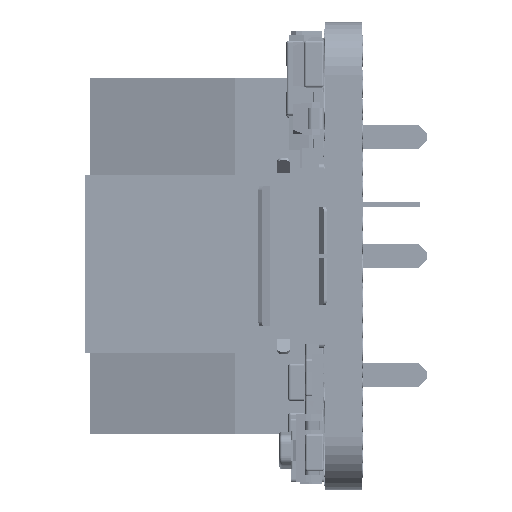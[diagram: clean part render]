
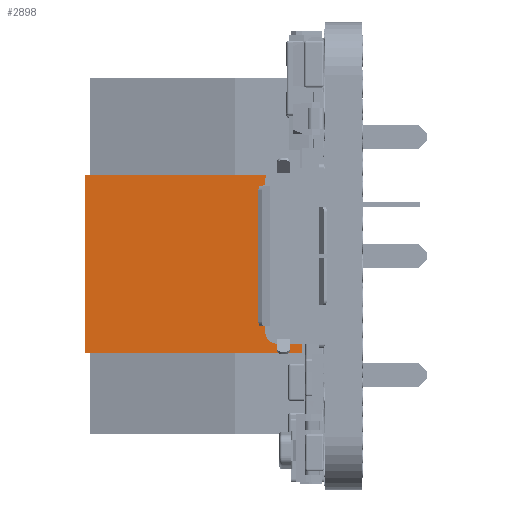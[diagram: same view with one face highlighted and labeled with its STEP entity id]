
A CAD part, left-side view. The second image highlights one B-rep face of the part: STEP entity #2898.
In plain terms, the highlighted planar face has unit normal (-1, 0, 0) as drawn and (1, 0, 0) by its records, which use the part's own axes.
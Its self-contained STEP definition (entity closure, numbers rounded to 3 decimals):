
#2898 = ADVANCED_FACE ( 'NONE', ( #107279 ), #122616, .F. ) ;
#31966 = ORIENTED_EDGE ( 'NONE', *, *, #424789, .T. ) ;
#32088 = ORIENTED_EDGE ( 'NONE', *, *, #425479, .F. ) ;
#32100 = ORIENTED_EDGE ( 'NONE', *, *, #425341, .T. ) ;
#32123 = ORIENTED_EDGE ( 'NONE', *, *, #425476, .F. ) ;
#107279 = FACE_OUTER_BOUND ( 'NONE', #331266, .T. ) ;
#115985 = AXIS2_PLACEMENT_3D ( 'NONE', #122537, #122552, #122433 ) ;
#122433 = DIRECTION ( 'NONE',  ( 0., 0., 1. ) ) ;
#122537 = CARTESIAN_POINT ( 'NONE',  ( 5.75, 10.2, 6.33 ) ) ;
#122552 = DIRECTION ( 'NONE',  ( -1., 0., 0. ) ) ;
#122616 = PLANE ( 'NONE',  #115985 ) ;
#283594 = CARTESIAN_POINT ( 'NONE',  ( 5.75, 0., 6.33 ) ) ;
#283620 = CARTESIAN_POINT ( 'NONE',  ( 5.75, 10.2, 6.33 ) ) ;
#310725 = CARTESIAN_POINT ( 'NONE',  ( 5.75, 0., -1.27 ) ) ;
#310746 = CARTESIAN_POINT ( 'NONE',  ( 5.75, 10.2, -1.27 ) ) ;
#331266 = EDGE_LOOP ( 'NONE', ( #32100, #31966, #32088, #32123 ) ) ;
#361887 = VECTOR ( 'NONE', #386007, 1000. ) ;
#361961 = LINE ( 'NONE', #386003, #361887 ) ;
#386003 = CARTESIAN_POINT ( 'NONE',  ( 5.75, 10.2, -1.27 ) ) ;
#386007 = DIRECTION ( 'NONE',  ( 0., 1., 0. ) ) ;
#393180 = CARTESIAN_POINT ( 'NONE',  ( 5.75, 0., 6.33 ) ) ;
#393203 = DIRECTION ( 'NONE',  ( 0., 0., -1. ) ) ;
#393627 = CARTESIAN_POINT ( 'NONE',  ( 5.75, 10.2, 6.33 ) ) ;
#393648 = DIRECTION ( 'NONE',  ( 0., 1., 0. ) ) ;
#393656 = CARTESIAN_POINT ( 'NONE',  ( 5.75, 10.2, 6.33 ) ) ;
#393659 = DIRECTION ( 'NONE',  ( 0., 0., -1. ) ) ;
#399494 = VECTOR ( 'NONE', #393203, 1000. ) ;
#399557 = LINE ( 'NONE', #393180, #399494 ) ;
#399582 = VECTOR ( 'NONE', #393648, 1000. ) ;
#399628 = LINE ( 'NONE', #393627, #399582 ) ;
#399670 = LINE ( 'NONE', #393656, #399678 ) ;
#399678 = VECTOR ( 'NONE', #393659, 1000. ) ;
#401399 = VERTEX_POINT ( 'NONE', #283594 ) ;
#401404 = VERTEX_POINT ( 'NONE', #283620 ) ;
#405175 = VERTEX_POINT ( 'NONE', #310725 ) ;
#405237 = VERTEX_POINT ( 'NONE', #310746 ) ;
#424789 = EDGE_CURVE ( 'NONE', #405175, #405237, #361961, .T. ) ;
#425341 = EDGE_CURVE ( 'NONE', #401399, #405175, #399557, .T. ) ;
#425476 = EDGE_CURVE ( 'NONE', #401399, #401404, #399628, .T. ) ;
#425479 = EDGE_CURVE ( 'NONE', #401404, #405237, #399670, .T. ) ;
